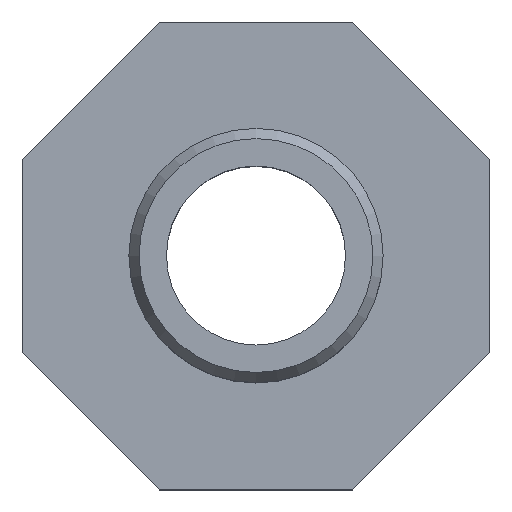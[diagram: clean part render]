
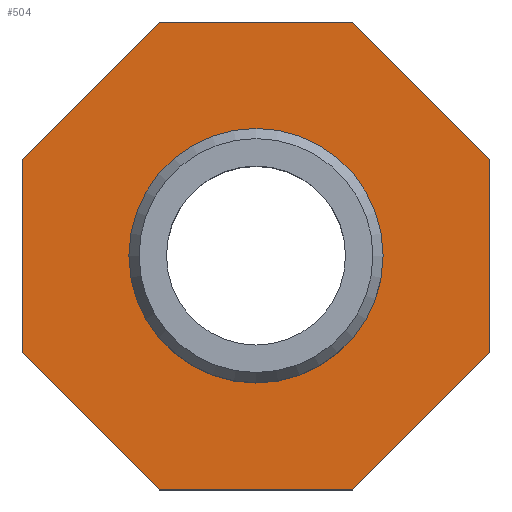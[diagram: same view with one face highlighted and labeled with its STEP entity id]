
A CAD part, top view. The second image highlights one B-rep face of the part: STEP entity #504.
In plain terms, the highlighted planar face has unit normal (0, 0, 1).
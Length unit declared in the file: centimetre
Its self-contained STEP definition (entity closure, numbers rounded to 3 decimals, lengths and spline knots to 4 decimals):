
#19=LINE('',#4136,#47);
#23=LINE('',#4144,#51);
#26=LINE('',#4150,#54);
#29=LINE('',#4156,#57);
#32=LINE('',#4162,#60);
#35=LINE('',#4168,#63);
#38=LINE('',#4174,#66);
#41=LINE('',#4179,#69);
#47=VECTOR('',#610,1.9054);
#51=VECTOR('',#616,1.9054);
#54=VECTOR('',#621,1.9054);
#57=VECTOR('',#626,1.9054);
#60=VECTOR('',#631,1.9054);
#63=VECTOR('',#636,1.9054);
#66=VECTOR('',#641,1.9054);
#69=VECTOR('',#646,1.9054);
#101=PLANE('',#545);
#112=FACE_BOUND('',#183,.T.);
#144=FACE_OUTER_BOUND('',#182,.T.);
#182=EDGE_LOOP('',(#413,#414,#415,#416,#417,#418,#419,#420));
#183=EDGE_LOOP('',(#421));
#207=CIRCLE('',#525,1.25);
#231=VERTEX_POINT('',#756);
#241=VERTEX_POINT('',#4134);
#242=VERTEX_POINT('',#4135);
#245=VERTEX_POINT('',#4143);
#247=VERTEX_POINT('',#4149);
#249=VERTEX_POINT('',#4155);
#251=VERTEX_POINT('',#4161);
#253=VERTEX_POINT('',#4167);
#255=VERTEX_POINT('',#4173);
#274=EDGE_CURVE('',#231,#231,#207,.T.);
#292=EDGE_CURVE('',#241,#242,#19,.T.);
#296=EDGE_CURVE('',#245,#241,#23,.T.);
#299=EDGE_CURVE('',#247,#245,#26,.T.);
#302=EDGE_CURVE('',#249,#247,#29,.T.);
#305=EDGE_CURVE('',#251,#249,#32,.T.);
#308=EDGE_CURVE('',#253,#251,#35,.T.);
#311=EDGE_CURVE('',#255,#253,#38,.T.);
#314=EDGE_CURVE('',#242,#255,#41,.T.);
#413=ORIENTED_EDGE('',*,*,#314,.F.);
#414=ORIENTED_EDGE('',*,*,#292,.F.);
#415=ORIENTED_EDGE('',*,*,#296,.F.);
#416=ORIENTED_EDGE('',*,*,#299,.F.);
#417=ORIENTED_EDGE('',*,*,#302,.F.);
#418=ORIENTED_EDGE('',*,*,#305,.F.);
#419=ORIENTED_EDGE('',*,*,#308,.F.);
#420=ORIENTED_EDGE('',*,*,#311,.F.);
#421=ORIENTED_EDGE('',*,*,#274,.F.);
#504=ADVANCED_FACE('',(#144,#112),#101,.T.);
#525=AXIS2_PLACEMENT_3D('',#757,#582,#583);
#545=AXIS2_PLACEMENT_3D('',#4182,#650,#651);
#582=DIRECTION('center_axis',(0.,0.,1.));
#583=DIRECTION('ref_axis',(1.,0.,0.));
#610=DIRECTION('',(1.,0.,0.));
#616=DIRECTION('',(0.707,0.707,0.));
#621=DIRECTION('',(0.,1.,0.));
#626=DIRECTION('',(-0.707,0.707,0.));
#631=DIRECTION('',(-1.,0.,0.));
#636=DIRECTION('',(-0.707,-0.707,0.));
#641=DIRECTION('',(0.,-1.,0.));
#646=DIRECTION('',(0.707,-0.707,0.));
#650=DIRECTION('center_axis',(0.,0.,1.));
#651=DIRECTION('ref_axis',(1.,0.,0.));
#756=CARTESIAN_POINT('',(0.848,-0.003,0.9233));
#757=CARTESIAN_POINT('Origin',(-0.402,-0.003,
0.9233));
#4134=CARTESIAN_POINT('',(-1.3547,2.297,0.9233));
#4135=CARTESIAN_POINT('',(0.5507,2.297,0.9233));
#4136=CARTESIAN_POINT('',(-1.3547,2.297,0.9233));
#4143=CARTESIAN_POINT('',(-2.702,0.9497,0.9233));
#4144=CARTESIAN_POINT('',(-2.702,0.9497,0.9233));
#4149=CARTESIAN_POINT('',(-2.702,-0.9557,0.9233));
#4150=CARTESIAN_POINT('',(-2.702,-0.9557,0.9233));
#4155=CARTESIAN_POINT('',(-1.3547,-2.303,0.9233));
#4156=CARTESIAN_POINT('',(-1.3547,-2.303,0.9233));
#4161=CARTESIAN_POINT('',(0.5507,-2.303,0.9233));
#4162=CARTESIAN_POINT('',(0.5507,-2.303,0.9233));
#4167=CARTESIAN_POINT('',(1.898,-0.9557,0.9233));
#4168=CARTESIAN_POINT('',(1.898,-0.9557,0.9233));
#4173=CARTESIAN_POINT('',(1.898,0.9497,0.9233));
#4174=CARTESIAN_POINT('',(1.898,0.9497,0.9233));
#4179=CARTESIAN_POINT('',(0.5507,2.297,0.9233));
#4182=CARTESIAN_POINT('Origin',(0.848,-0.003,
0.9233));
